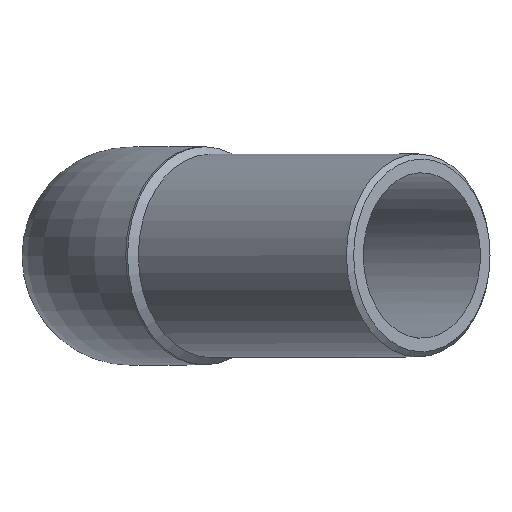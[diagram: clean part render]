
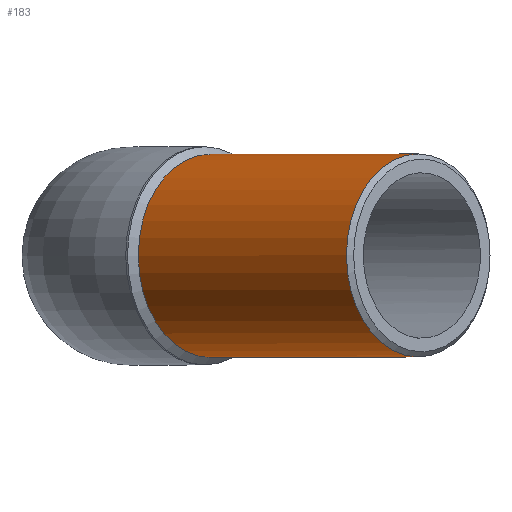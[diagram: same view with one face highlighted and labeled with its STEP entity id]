
A CAD part, top view. The second image highlights one B-rep face of the part: STEP entity #183.
In plain terms, the highlighted cylindrical face has radius 20 mm (diameter 40 mm), a full revolution.
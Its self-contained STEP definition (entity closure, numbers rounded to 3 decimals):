
#29=CYLINDRICAL_SURFACE('',#212,20.);
#37=ORIENTED_EDGE('',*,*,#75,.T.);
#38=ORIENTED_EDGE('',*,*,#73,.F.);
#73=EDGE_CURVE('',#92,#92,#110,.T.);
#75=EDGE_CURVE('',#94,#94,#112,.T.);
#92=VERTEX_POINT('',#301);
#94=VERTEX_POINT('',#306);
#110=CIRCLE('',#210,20.);
#112=CIRCLE('',#213,20.);
#126=EDGE_LOOP('',(#37));
#127=EDGE_LOOP('',(#38));
#153=FACE_BOUND('',#126,.T.);
#154=FACE_BOUND('',#127,.T.);
#183=ADVANCED_FACE('',(#153,#154),#29,.T.);
#210=AXIS2_PLACEMENT_3D('',#300,#242,#243);
#212=AXIS2_PLACEMENT_3D('',#304,#246,#247);
#213=AXIS2_PLACEMENT_3D('',#305,#248,#249);
#242=DIRECTION('',(-0.707,0.,-0.707));
#243=DIRECTION('',(-0.707,0.,0.707));
#246=DIRECTION('',(0.707,0.,0.707));
#247=DIRECTION('',(-0.707,0.,0.707));
#248=DIRECTION('',(-0.707,0.,-0.707));
#249=DIRECTION('',(-0.707,0.,0.707));
#300=CARTESIAN_POINT('',(15.556,0.,15.556));
#301=CARTESIAN_POINT('',(1.414,0.,29.698));
#304=CARTESIAN_POINT('',(65.054,0.,65.054));
#305=CARTESIAN_POINT('',(56.569,0.,56.569));
#306=CARTESIAN_POINT('',(42.426,0.,70.711));
